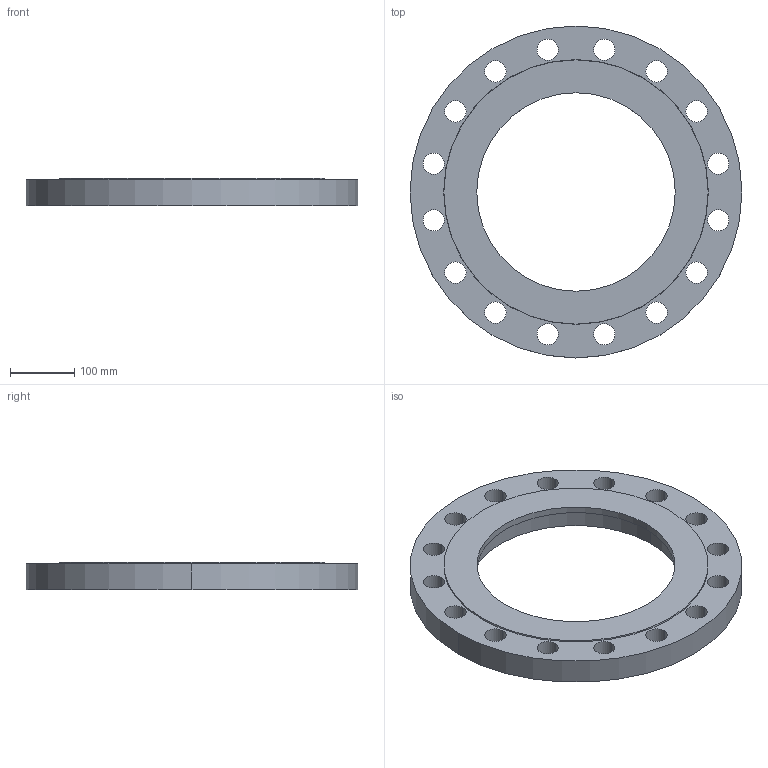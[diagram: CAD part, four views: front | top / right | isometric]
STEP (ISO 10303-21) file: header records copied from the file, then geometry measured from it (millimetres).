
FILE_DESCRIPTION (( 'STEP AP214' ), '1' );
FILE_NAME ('PN40 DN300 Type 05 - Socket (Type B) - Not in Standard.STEP', '2019-01-05T20:28:27', ( '' ), ( '' ), 'SwSTEP 2.0', 'SolidWorks 2019', '' );
FILE_SCHEMA (( 'AUTOMOTIVE_DESIGN' ));
Length unit declared in the file: millimetre
Products named in the file (1): PN40 DN300 Type 05 - Socket (Type B) - Not in Standard
Bounding box: 515 x 515 x 42 mm (x, y, z)
Volume: 4614074 mm3; surface area: 416126.4 mm2
Topology: 1 solids, 1 shells, 44 faces, 120 edges, 80 vertices
Faces by surface type: cylinder 38, plane 4, cone 2
Entity records: 1546 total; most frequent: DIRECTION 290, CARTESIAN_POINT 245, ORIENTED_EDGE 240, AXIS2_PLACEMENT_3D 125, EDGE_CURVE 120, EDGE_LOOP 80, CIRCLE 80, VERTEX_POINT 80
